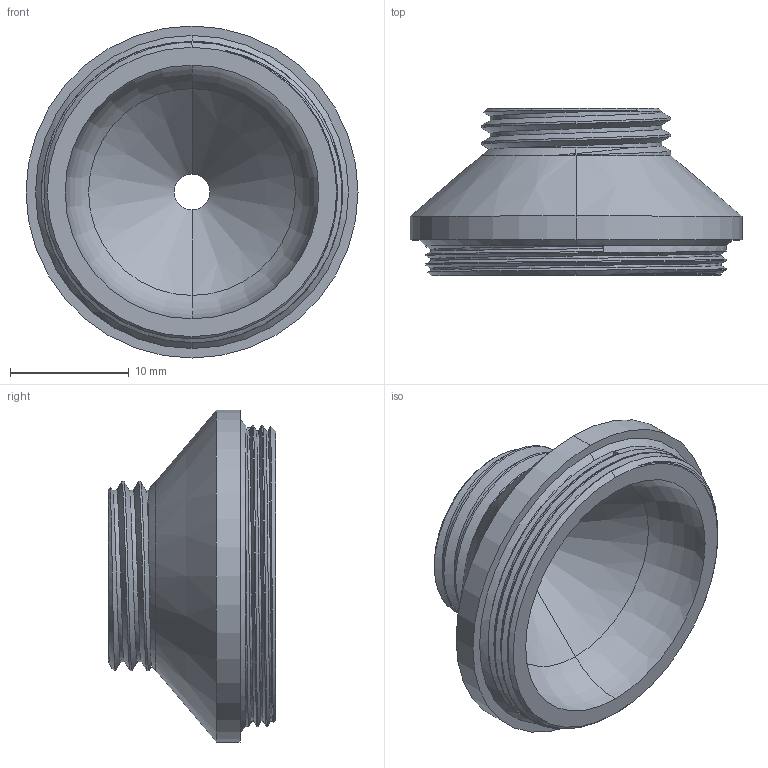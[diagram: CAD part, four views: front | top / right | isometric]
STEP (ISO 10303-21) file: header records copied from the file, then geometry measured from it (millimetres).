
FILE_DESCRIPTION (( 'STEP AP214' ), '1' );
FILE_NAME ('disposable-lens-body-[C-mount]-(apertureD=3mm).STEP', '2024-11-16T16:36:10', ( '' ), ( '' ), '' );
FILE_SCHEMA (( 'AUTOMOTIVE_DESIGN' ));
Length unit declared in the file: millimetre
Products named in the file (1): disposable-lens-body-[C-mount-F-mount]-(stopped-down)
Bounding box: 28 x 14.1 x 28 mm (x, y, z)
Volume: 3064.7 mm3; surface area: 2439.6 mm2
Topology: 1 solids, 1 shells, 49 faces, 124 edges, 79 vertices
Faces by surface type: cylinder 17, cone 12, bspline 12, plane 6, torus 2
Entity records: 5598 total; most frequent: CARTESIAN_POINT 4558, ORIENTED_EDGE 248, DIRECTION 162, EDGE_CURVE 124, VERTEX_POINT 79, AXIS2_PLACEMENT_3D 68, EDGE_LOOP 53, FACE_OUTER_BOUND 49
